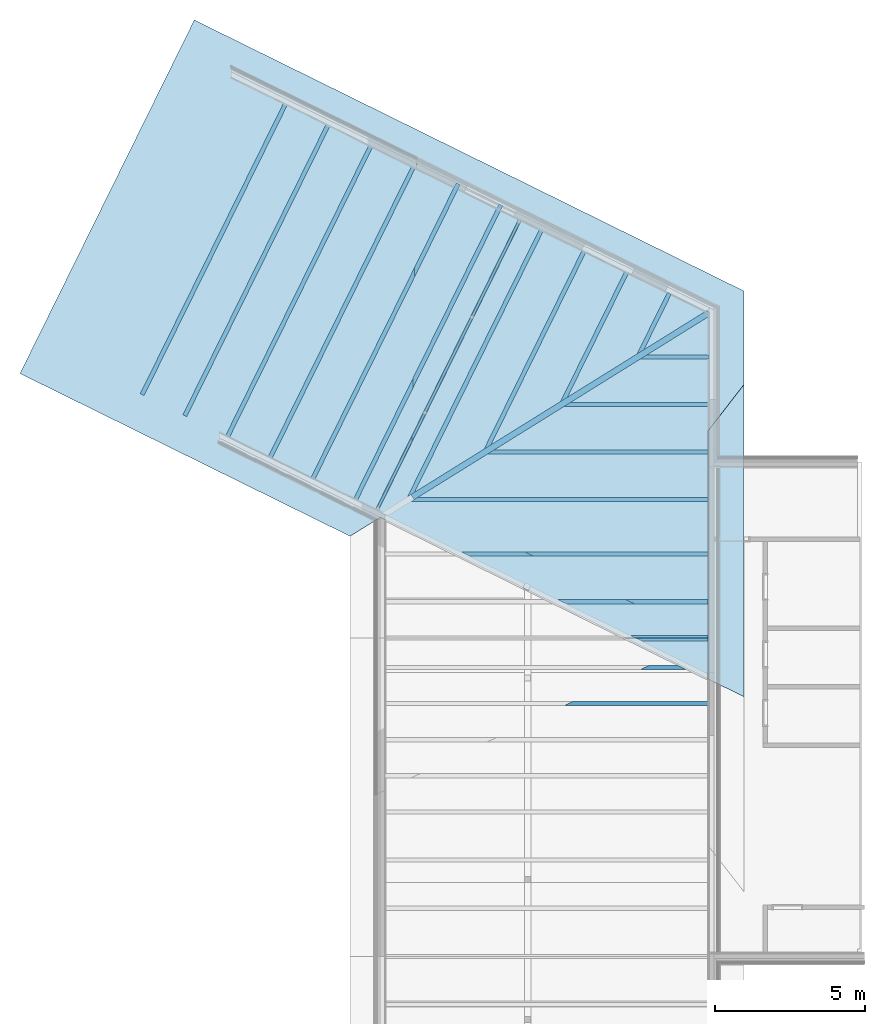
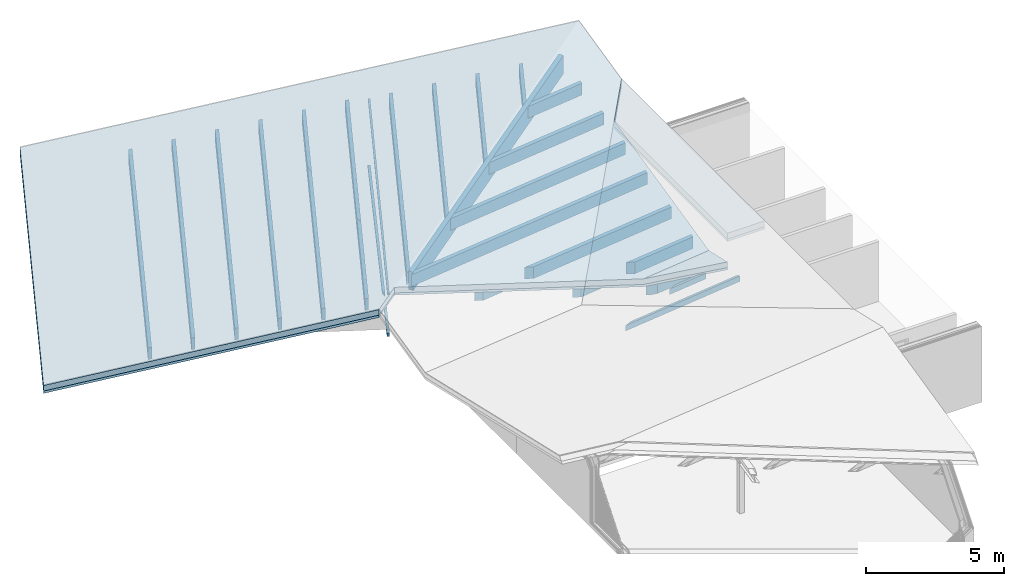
# One storey, part 13 of 14: 32 roofs, 1 element without a shape of its own.
"""IFC4 building model written with IfcOpenShell, lengths in metres."""

import ifcopenshell
import ifcopenshell.guid

model = None  # the IFC model being written
_history = None  # IfcOwnerHistory: only IFC2X3 demands one
_inside = {}  # id of a spatial element -> (the spatial element, [elements in it])
_under = {}  # id of a project, library or spatial element -> (it, [spatial elements below it])
_declared = {}  # id of a project -> (the project, [libraries it declares])
_typed = {}  # id of a type object -> (the type object, [elements of that type])
_made_of = {}  # id of a material, layer set ... -> (it, [elements and type objects made of it])


def new_model(schema):
    """Start an empty IFC model of exactly this schema.

    Asked for "IFC4X3", IfcOpenShell would pick the latest addendum, in which some entities
    have other attributes; the version numbers below select the first issue.
    IFC2X3 requires an IfcOwnerHistory on every rooted entity: one is made here for all.
    """
    global model, _history
    if schema == "IFC4X3":
        model = ifcopenshell.file(schema_version=(4, 3, 0, 0))
    else:
        model = ifcopenshell.file(schema=schema)
    _inside.clear()
    _under.clear()
    _declared.clear()
    _typed.clear()
    _made_of.clear()
    _history = None
    if model.schema == "IFC2X3":
        org = make("IfcOrganization", Name="unknown")
        user = make(
            "IfcPersonAndOrganization",
            ThePerson=make("IfcPerson", FamilyName="unknown"),
            TheOrganization=org,
        )
        app = make(
            "IfcApplication",
            ApplicationDeveloper=org,
            Version="unknown",
            ApplicationFullName="unknown",
            ApplicationIdentifier="unknown",
        )
        _history = make(
            "IfcOwnerHistory",
            OwningUser=user,
            OwningApplication=app,
            ChangeAction="ADDED",
            CreationDate=0,
        )
    return model


def make(cls, **values):
    """One entity of the class cls with the attributes given. An attribute that is None is left unset."""
    return model.create_entity(
        cls, **{name: value for name, value in values.items() if value is not None}
    )


def entity(cls, *values):
    """Any entity or typed value of the class cls, its attributes in the order of the schema. None: left unset."""
    e = model.create_entity(cls)
    for i, value in enumerate(values):
        if value is not None:
            e[i] = value
    return e


def rooted(cls, **values):
    """An entity with a GlobalId (a new one), such as an element, a storey or a relation."""
    return make(cls, GlobalId=ifcopenshell.guid.new(), OwnerHistory=_history, **values)


def si_unit(unit_type, name, prefix=None):
    """IfcSIUnit, for example si_unit("LENGTHUNIT", "METRE", prefix="MILLI")."""
    return make("IfcSIUnit", UnitType=unit_type, Prefix=prefix, Name=name)


def converted_unit(unit_type, name, factor, base, dimensions=None, offset=None):
    """IfcConversionBasedUnit, such as the inch: factor (a typed value) times the base unit."""
    return make(
        "IfcConversionBasedUnit"
        if offset is None
        else "IfcConversionBasedUnitWithOffset",
        ConversionOffset=offset,
        Dimensions=None
        if dimensions is None
        else entity("IfcDimensionalExponents", *dimensions),
        UnitType=unit_type,
        Name=name,
        ConversionFactor=make(
            "IfcMeasureWithUnit", ValueComponent=factor, UnitComponent=base
        ),
    )


def derived_unit(unit_type, elements):
    """IfcDerivedUnit: a product of units, each with its exponent."""
    return make(
        "IfcDerivedUnit",
        Elements=[
            make("IfcDerivedUnitElement", Unit=unit, Exponent=power)
            for unit, power in elements
        ],
        UnitType=unit_type,
    )


def assignment(units):
    """IfcUnitAssignment: the units of a project."""
    return None if units is None else make("IfcUnitAssignment", Units=units)


def point(xyz):
    """IfcCartesianPoint."""
    return None if xyz is None else make("IfcCartesianPoint", Coordinates=xyz)


def direction(xyz):
    """IfcDirection."""
    return None if xyz is None else make("IfcDirection", DirectionRatios=xyz)


def frame(location, z_axis=None, x_axis=None):
    """IfcAxis2Placement3D, a coordinate frame: its origin and axes. An axis left out is left unset."""
    return make(
        "IfcAxis2Placement3D",
        Location=point(location),
        Axis=direction(z_axis),
        RefDirection=direction(x_axis),
    )


def origin():
    """The frame at (0, 0, 0) with its axes left unset."""
    return frame((0.0, 0.0, 0.0))


def place(relative_to, where):
    """IfcLocalPlacement: puts the frame where relative to a parent placement (None: the world)."""
    return make(
        "IfcLocalPlacement", PlacementRelTo=relative_to, RelativePlacement=where
    )


def context(
    kind, dimensions, precision=None, world=None, true_north=None, identifier=None
):
    """IfcGeometricRepresentationContext, for example the 3D "Model" context."""
    return make(
        "IfcGeometricRepresentationContext",
        ContextIdentifier=identifier,
        ContextType=kind,
        CoordinateSpaceDimension=dimensions,
        Precision=precision,
        WorldCoordinateSystem=world,
        TrueNorth=true_north,
    )


def subcontext(parent, identifier, kind, view, scale=None):
    """IfcGeometricRepresentationSubContext, for example "Body" below "Model"."""
    return make(
        "IfcGeometricRepresentationSubContext",
        ContextIdentifier=identifier,
        ContextType=kind,
        ParentContext=parent,
        TargetScale=scale,
        TargetView=view,
    )


def project(units=None, contexts=None):
    """IfcProject with its units and contexts."""
    return rooted(
        "IfcProject",
        Name="project",
        RepresentationContexts=contexts,
        UnitsInContext=assignment(units),
    )


def spatial(cls, under=None, at=None, **own):
    """A site, building, storey or space (cls), placed at a placement, below another one or the project."""
    s = rooted(cls, ObjectPlacement=at, **own)
    if under is not None:
        _under.setdefault(under.id(), (under, []))[1].append(s)
    return s


def faces_of(points, faces, orient=None, outer=None):
    """IfcFace entities. A face is a list of loops; a loop is a list of indices into points, from 0.

    orient and outer hold one flag for each loop. By default every Orientation is true, the
    first loop of a face is its IfcFaceOuterBound and the others are IfcFaceBound.
    """
    made = []
    for i, loops in enumerate(faces):
        bounds = []
        for j, loop in enumerate(loops):
            is_outer = j == 0 if outer is None else outer[i][j]
            bounds.append(
                make(
                    "IfcFaceOuterBound" if is_outer else "IfcFaceBound",
                    Bound=make("IfcPolyLoop", Polygon=[points[k] for k in loop]),
                    Orientation=True if orient is None else orient[i][j],
                )
            )
        made.append(make("IfcFace", Bounds=bounds))
    return made


def faceted_brep(points, faces, orient=None, outer=None, voids=None):
    """IfcFacetedBrep: a solid bounded by flat faces; with voids (closed shells), ...WithVoids."""
    shared = [point(p) for p in points]
    hull = make("IfcClosedShell", CfsFaces=faces_of(shared, faces, orient, outer))
    if voids is None:
        return make("IfcFacetedBrep", Outer=hull)
    return make(
        "IfcFacetedBrepWithVoids",
        Outer=hull,
        Voids=[
            make(cls, CfsFaces=faces_of(shared, fs, o, b)) for cls, fs, o, b in voids
        ],
    )


def shape(context_of_items, identifier, shape_type, items):
    """IfcShapeRepresentation: the items that make up one representation, for example the "Body"."""
    return make(
        "IfcShapeRepresentation",
        ContextOfItems=context_of_items,
        RepresentationIdentifier=identifier,
        RepresentationType=shape_type,
        Items=items,
    )


def material(Name=None, Category=None):
    """IfcMaterial."""
    return make("IfcMaterial", Name=Name, Category=Category)


def made_of(thing, what):
    """Note that an element or type object is made of a material, layer set ...; save() writes the relation."""
    if what is not None:
        _made_of.setdefault(what.id(), (what, []))[1].append(thing)
    return thing


def element(
    cls,
    number,
    at=None,
    inside=None,
    cuts=None,
    type_object=None,
    material=None,
    context=None,
    identifier="Body",
    shape_type=None,
    held_by="IfcProductDefinitionShape",
    body=None,
    shapes=None,
    **own,
):
    """One element of the class cls, such as IfcWall. Its Tag is "e" and its number.

    at: its placement. inside: the storey or other place that contains it. cuts: it is an
    opening in that element (IfcRelVoidsElement). A single representation is given by context,
    identifier, shape_type and body (its items); several are given by shapes. held_by: the class
    of the entity that holds the representations. save() writes the other relations.
    """
    e = rooted(cls, Tag="e%d" % number, ObjectPlacement=at, **own)
    if body is not None:
        shapes = [shape(context, identifier, shape_type, body)]
    if shapes is not None:
        e.Representation = make(held_by, Representations=shapes)
    if inside is not None:
        _inside.setdefault(inside.id(), (inside, []))[1].append(e)
    if cuts is not None:
        rooted(
            "IfcRelVoidsElement", RelatingBuildingElement=cuts, RelatedOpeningElement=e
        )
    if type_object is not None:
        _typed.setdefault(type_object.id(), (type_object, []))[1].append(e)
    return made_of(e, material)


def aggregate(whole, parts):
    """IfcRelAggregates: a whole, such as a stair, and the parts it consists of."""
    return rooted("IfcRelAggregates", RelatingObject=whole, RelatedObjects=parts)


def save(model, path):
    """Write the relations noted so far, then the file.

    IfcRelAggregates (storeys below a building ...), IfcRelContainedInSpatialStructure (elements
    in a storey), IfcRelDefinesByType, IfcRelAssociatesMaterial and IfcRelDeclares: one each for
    every whole, place, type object, material and project.
    """
    for whole, parts in _under.values():
        aggregate(whole, parts)
    for where, things in _inside.values():
        rooted(
            "IfcRelContainedInSpatialStructure",
            RelatedElements=things,
            RelatingStructure=where,
        )
    for kind, things in _typed.values():
        rooted("IfcRelDefinesByType", RelatedObjects=things, RelatingType=kind)
    for what, things in _made_of.values():
        rooted("IfcRelAssociatesMaterial", RelatedObjects=things, RelatingMaterial=what)
    for by, libraries in _declared.values():
        rooted("IfcRelDeclares", RelatingContext=by, RelatedDefinitions=libraries)
    model.write(path)


model = new_model("IFC4")

# Units and contexts
model_context = context("Model", 3, precision=1e-05, world=origin())
body_context = subcontext(model_context, "Body", "Model", "MODEL_VIEW")
ifc_project = project(units=[si_unit("LENGTHUNIT", "METRE"), si_unit("AREAUNIT", "SQUARE_METRE"), si_unit("VOLUMEUNIT", "CUBIC_METRE"), si_unit("MASSUNIT", "GRAM", prefix="KILO"), converted_unit("PLANEANGLEUNIT", "DEGREE", entity("IfcPlaneAngleMeasure", 0.0174532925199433), si_unit("PLANEANGLEUNIT", "RADIAN"), dimensions=[0, 0, 0, 0, 0, 0, 0]), derived_unit("THERMALTRANSMITTANCEUNIT", [(si_unit("POWERUNIT", "WATT"), 1), (si_unit("THERMODYNAMICTEMPERATUREUNIT", "KELVIN"), -1), (si_unit("LENGTHUNIT", "METRE"), -2)]), derived_unit("VOLUMETRICFLOWRATEUNIT", [(si_unit("LENGTHUNIT", "METRE"), 3), (converted_unit("TIMEUNIT", "hour", entity("IfcTimeMeasure", 3600.0), si_unit("TIMEUNIT", "SECOND"), dimensions=[0, 0, 1, 0, 0, 0, 0]), -1), (si_unit("LENGTHUNIT", "METRE"), -1)])], contexts=[model_context])

# Site, building, storey
site_placement = place(None, origin())
site = spatial("IfcSite", under=ifc_project, at=site_placement, Name="Psychiatrie Neubau Wunstorf", CompositionType="ELEMENT")
building_placement = place(site_placement, origin())
building = spatial("IfcBuilding", under=site, at=building_placement, Name="Neubau H1 Sozialzentrum", CompositionType="ELEMENT")
storey_placement = place(building_placement, frame((0.0, 0.0, 4.45)))
storey = spatial("IfcBuildingStorey", under=building, at=storey_placement, Name="H1 Ebene +1", CompositionType="ELEMENT", Elevation=4.45)

# Assembly, roofs
assembly_placement = place(storey_placement, frame((0.0, 0.0, -4.45)))
assembly = element("IfcElementAssembly", 1, at=assembly_placement, inside=storey, Name="Fachwerkträger", PredefinedType="NOTDEFINED")
ifc_material_1 = material(Name="Schwerlast-Deckenprofil")
roof_1_placement = place(assembly_placement, frame((-15.0033747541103, 28.9337753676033, 3.7)))
roof_1 = element("IfcRoof", 2, at=roof_1_placement, material=ifc_material_1, PredefinedType="NOTDEFINED", context=body_context, shape_type="Brep", body=[
    faceted_brep([(0.00388379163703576, 0.234007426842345, 0.0), (3.53345114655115, 7.39258999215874, 0.0), (3.53345114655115, 7.39258999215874, 0.15), (0.00388379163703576, 0.234007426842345, 0.15), (3.62314167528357, 7.3483677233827, 0.0), (3.62314167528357, 7.3483677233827, 0.15), (0.0, 0.0, 0.0), (0.0, 0.0, 0.15)], [[[0, 1, 2, 3]], [[1, 4, 5, 2]], [[4, 6, 7, 5]], [[6, 0, 3, 7]], [[7, 3, 2, 5]], [[0, 6, 4, 1]]], orient=[[False], [False], [False], [False], [False], [False]]),
])
ifc_material_2 = material(Name="Schwerlast-Deckenprofil")
roof_2_placement = place(assembly_placement, frame((-16.1981029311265, 26.6925649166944, 3.7)))
roof_2 = element("IfcRoof", 3, at=roof_2_placement, material=ifc_material_2, PredefinedType="NOTDEFINED", context=body_context, shape_type="Brep", body=[
    faceted_brep([(0.0, 0.0442222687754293, 0.0), (1.19861196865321, 2.47521787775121, 0.0), (1.19861196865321, 2.47521787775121, 0.15), (0.0, 0.0442222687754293, 0.15), (1.19472817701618, 2.24121045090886, 0.0), (1.19472817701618, 2.24121045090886, 0.15), (0.0896905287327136, 0.0, 0.0), (0.0896905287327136, 0.0, 0.15)], [[[0, 1, 2, 3]], [[1, 4, 5, 2]], [[4, 6, 7, 5]], [[6, 0, 3, 7]], [[7, 3, 2, 5]], [[0, 6, 4, 1]]], orient=[[False], [False], [False], [False], [False], [False]]),
])
ifc_material_3 = material(Name="Schwerlast-Deckenprofil")
roof_3_placement = place(assembly_placement, frame((-16.1891338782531, 26.6969871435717, 5.54337227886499)))
roof_3 = element("IfcRoof", 4, at=roof_3_placement, material=ifc_material_3, PredefinedType="NOTDEFINED", context=body_context, shape_type="Brep", body=[
    faceted_brep([(0.0, 0.0353778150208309, 0.0), (1.18925453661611, 2.44739490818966, 0.292417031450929), (1.18925453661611, 2.44739490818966, 0.374965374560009), (0.0, 0.0353778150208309, 0.0825483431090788), (1.18614750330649, 2.26018896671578, 0.292410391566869), (1.18614750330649, 2.26018896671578, 0.374958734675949), (0.07175242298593, 0.0, 0.0183999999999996), (0.07175242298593, 0.0, 0.100948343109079)], [[[0, 1, 2, 3]], [[1, 4, 5, 2]], [[4, 6, 7, 5]], [[6, 0, 3, 7]], [[7, 3, 2, 5]], [[0, 6, 4, 1]]], orient=[[False], [False], [False], [False], [False], [False]]),
])
ifc_material_4 = material(Name="Schwerlast-Deckenprofil")
roof_4_placement = place(assembly_placement, frame((-15.0029863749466, 28.9571761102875, 5.83578267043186)))
roof_4 = element("IfcRoof", 5, at=roof_4_placement, material=ifc_material_4, PredefinedType="NOTDEFINED", context=body_context, shape_type="Brep", body=[
    faceted_brep([(0.0031070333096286, 0.18720594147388, 6.63988405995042e-06), (3.54203182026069, 7.36476702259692, 0.870166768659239), (3.54203182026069, 7.36476702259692, 0.952715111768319), (0.0031070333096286, 0.18720594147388, 0.0825549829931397), (3.61378424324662, 7.32938920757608, 0.888566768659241), (3.61378424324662, 7.32938920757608, 0.971115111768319), (0.0, 0.0, 0.0), (0.0, 0.0, 0.0825483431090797)], [[[0, 1, 2, 3]], [[1, 4, 5, 2]], [[4, 6, 7, 5]], [[6, 0, 3, 7]], [[7, 3, 2, 5]], [[0, 6, 4, 1]]], orient=[[False], [False], [False], [False], [False], [False]]),
])
aggregate(assembly, [roof_1, roof_2, roof_3, roof_4])

# Roofs
ifc_material_5 = material(Name="Schwerlast-Deckenprofil")
roof_5_placement = place(storey_placement, frame((-15.0320578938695, 27.0357132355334, 0.648268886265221)))
element("IfcRoof", 6, at=roof_5_placement, inside=storey, material=ifc_material_5, PredefinedType="NOTDEFINED", context=body_context, shape_type="Brep", body=[
    faceted_brep([(0.0, 0.169836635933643, 0.0), (9.84458421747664, 6.29208371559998, 2.47856907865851), (9.84458421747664, 6.29208371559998, 3.29856907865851), (0.0, 0.169836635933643, 0.82), (9.89949113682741, 6.20379329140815, 3.31290707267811), (0.055651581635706, 0.0803487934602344, 0.834532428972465), (0.055651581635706, 0.0803487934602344, 0.0145324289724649), (9.89949113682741, 6.20379329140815, 2.49290707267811), (9.9502038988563, 6.12224707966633, 2.47966369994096), (9.9502038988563, 6.12224707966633, 3.29966369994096), (0.10561968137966, 0.0, 0.00148352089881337), (0.10561968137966, 0.0, 0.821483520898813)], [[[0, 1, 2, 3]], [[3, 2, 4, 5]], [[1, 0, 6, 7]], [[8, 9, 4, 2, 1, 7]], [[8, 10, 11, 9]], [[10, 6, 0, 3, 5, 11]], [[11, 5, 4, 9]], [[6, 10, 8, 7]]], orient=[[False], [False], [False], [False], [False], [False], [False], [False]]),
])
ifc_material_6 = material(Name="Schwerlast-Deckenprofil")
roof_6_placement = place(storey_placement, frame((-15.1422611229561, 27.137015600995, 0.920523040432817)))
element("IfcRoof", 7, at=roof_6_placement, inside=storey, material=ifc_material_6, PredefinedType="NOTDEFINED", context=body_context, shape_type="Brep", body=[
    faceted_brep([(4.50444136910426, 8.81921575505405, 1.10888920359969), (0.225119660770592, 0.139999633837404, 0.0566783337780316), (0.225119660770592, 0.139999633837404, 0.576678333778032), (4.50444136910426, 8.81921575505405, 1.62888920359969), (0.0, 0.0, 0.0), (0.0, 0.0, 0.52), (4.37887462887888, 8.8811269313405, 1.07668920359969), (4.37887462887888, 8.8811269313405, 1.59668920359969)], [[[0, 1, 2, 3]], [[1, 4, 5, 2]], [[4, 6, 7, 5]], [[6, 0, 3, 7]], [[7, 3, 2, 5]], [[0, 6, 4, 1]]], orient=[[False], [False], [False], [False], [False], [False]]),
])
ifc_material_7 = material(Name="Schwerlast-Deckenprofil")
roof_7_placement = place(storey_placement, frame((-19.7747369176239, 28.3982114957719, -0.263393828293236)))
element("IfcRoof", 8, at=roof_7_placement, inside=storey, material=ifc_material_7, PredefinedType="NOTDEFINED", context=body_context, shape_type="Brep", body=[
    faceted_brep([(4.95634175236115, 9.79766028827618, 1.22000365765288), (0.125566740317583, 0.0, 0.0322000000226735), (0.125566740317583, 0.0, 0.552200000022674), (4.95634175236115, 9.79766028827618, 1.74000365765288), (0.0, 0.0619111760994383, 0.0), (0.0, 0.0619111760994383, 0.520000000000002), (4.83077501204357, 9.85957146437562, 1.18780365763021), (4.83077501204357, 9.85957146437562, 1.70780365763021)], [[[0, 1, 2, 3]], [[1, 4, 5, 2]], [[4, 6, 7, 5]], [[6, 0, 3, 7]], [[7, 3, 2, 5]], [[0, 6, 4, 1]]], orient=[[False], [False], [False], [False], [False], [False]]),
])
ifc_material_8 = material(Name="Schwerlast-Deckenprofil")
roof_8_placement = place(storey_placement, frame((-21.1918472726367, 29.0969233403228, -0.626793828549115)))
element("IfcRoof", 9, at=roof_8_placement, inside=storey, material=ifc_material_8, PredefinedType="NOTDEFINED", context=body_context, shape_type="Brep", body=[
    faceted_brep([(4.95634175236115, 9.79766028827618, 1.22000365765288), (0.125566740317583, 0.0, 0.0322000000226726), (0.125566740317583, 0.0, 0.552200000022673), (4.95634175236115, 9.79766028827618, 1.74000365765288), (0.0, 0.0619111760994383, 0.0), (0.0, 0.0619111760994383, 0.520000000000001), (4.83077501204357, 9.85957146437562, 1.18780365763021), (4.83077501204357, 9.85957146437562, 1.70780365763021)], [[[0, 1, 2, 3]], [[1, 4, 5, 2]], [[4, 6, 7, 5]], [[6, 0, 3, 7]], [[7, 3, 2, 5]], [[0, 6, 4, 1]]], orient=[[False], [False], [False], [False], [False], [False]]),
])
ifc_material_9 = material(Name="Schwerlast-Deckenprofil")
roof_9_placement = place(storey_placement, frame((-22.6089576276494, 29.7956351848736, -0.990193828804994)))
element("IfcRoof", 10, at=roof_9_placement, inside=storey, material=ifc_material_9, PredefinedType="NOTDEFINED", context=body_context, shape_type="Brep", body=[
    faceted_brep([(4.95634175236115, 9.79766028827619, 1.22000365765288), (0.125566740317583, 0.0, 0.0322000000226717), (0.125566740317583, 0.0, 0.552200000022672), (4.95634175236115, 9.79766028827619, 1.74000365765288), (0.0, 0.0619111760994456, 0.0), (0.0, 0.0619111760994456, 0.52), (4.83077501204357, 9.85957146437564, 1.18780365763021), (4.83077501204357, 9.85957146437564, 1.70780365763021)], [[[0, 1, 2, 3]], [[1, 4, 5, 2]], [[4, 6, 7, 5]], [[6, 0, 3, 7]], [[7, 3, 2, 5]], [[0, 6, 4, 1]]], orient=[[False], [False], [False], [False], [False], [False]]),
])
ifc_material_10 = material(Name="Schwerlast-Deckenprofil")
roof_10_placement = place(storey_placement, frame((-24.0260679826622, 30.4943470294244, -1.35359382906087)))
element("IfcRoof", 11, at=roof_10_placement, inside=storey, material=ifc_material_10, PredefinedType="NOTDEFINED", context=body_context, shape_type="Brep", body=[
    faceted_brep([(4.95634175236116, 9.79766028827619, 1.22000365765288), (0.125566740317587, 0.0, 0.0322000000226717), (0.125566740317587, 0.0, 0.552200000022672), (4.95634175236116, 9.79766028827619, 1.74000365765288), (0.0, 0.0619111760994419, 0.0), (0.0, 0.0619111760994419, 0.52), (4.83077501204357, 9.85957146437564, 1.18780365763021), (4.83077501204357, 9.85957146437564, 1.70780365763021)], [[[0, 1, 2, 3]], [[1, 4, 5, 2]], [[4, 6, 7, 5]], [[6, 0, 3, 7]], [[7, 3, 2, 5]], [[0, 6, 4, 1]]], orient=[[False], [False], [False], [False], [False], [False]]),
])
ifc_material_11 = material(Name="Schwerlast-Deckenprofil")
roof_11_placement = place(storey_placement, frame((-16.9405162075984, 27.0007878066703, 0.463406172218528)))
element("IfcRoof", 12, at=roof_11_placement, inside=storey, material=ifc_material_11, PredefinedType="NOTDEFINED", context=body_context, shape_type="Brep", body=[
    faceted_brep([(1.96704664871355, 3.73484472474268, 0.484987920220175), (0.125566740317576, 0.0, 0.0322000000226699), (0.125566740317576, 0.0, 0.55220000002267), (1.96704664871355, 3.73484472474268, 1.00498792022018), (0.0, 0.0619111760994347, 0.0), (0.0, 0.0619111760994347, 0.52), (1.97248395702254, 4.06245512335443, 0.484999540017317), (1.97248395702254, 4.06245512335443, 1.00499954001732)], [[[0, 1, 2, 3]], [[1, 4, 5, 2]], [[4, 6, 7, 5]], [[6, 0, 3, 7]], [[7, 3, 2, 5]], [[0, 6, 4, 1]]], orient=[[False], [False], [False], [False], [False], [False]]),
])
ifc_material_12 = material(Name="Schwerlast-Deckenprofil")
roof_12_placement = place(storey_placement, frame((-18.3576265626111, 27.6994996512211, 0.100006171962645)))
element("IfcRoof", 13, at=roof_12_placement, inside=storey, material=ifc_material_12, PredefinedType="NOTDEFINED", context=body_context, shape_type="Brep", body=[
    faceted_brep([(3.44552091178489, 6.73345023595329, 0.848519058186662), (0.12556674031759, 0.0, 0.0322000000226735), (0.12556674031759, 0.0, 0.552200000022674), (3.44552091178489, 6.73345023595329, 1.36851905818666), (0.0, 0.0619111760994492, 0.0), (0.0, 0.0619111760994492, 0.520000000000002), (3.45095822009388, 7.06106063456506, 0.848530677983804), (3.45095822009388, 7.06106063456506, 1.3685306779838)], [[[0, 1, 2, 3]], [[1, 4, 5, 2]], [[4, 6, 7, 5]], [[6, 0, 3, 7]], [[7, 3, 2, 5]], [[0, 6, 4, 1]]], orient=[[False], [False], [False], [False], [False], [False]]),
])
ifc_material_13 = material(Name="Schwerlast-Deckenprofil")
roof_13_placement = place(storey_placement, frame((-12.4960052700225, 28.5471628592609, 1.56156603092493)))
element("IfcRoof", 14, at=roof_13_placement, inside=storey, material=ifc_material_13, PredefinedType="NOTDEFINED", context=body_context, shape_type="Brep", body=[
    faceted_brep([(0.225119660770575, 0.140011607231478, 0.0566694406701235), (7.36133403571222, 0.139999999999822, 0.832342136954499), (7.36133403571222, 0.139999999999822, 1.3523421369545), (0.225119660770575, 0.140011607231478, 0.576669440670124), (7.36133380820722, 0.0, 0.800142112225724), (7.36133380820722, 0.0, 1.32014211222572), (0.0, 1.19733940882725e-05, 0.0), (0.0, 1.19733940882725e-05, 0.52)], [[[0, 1, 2, 3]], [[1, 4, 5, 2]], [[4, 6, 7, 5]], [[6, 0, 3, 7]], [[7, 3, 2, 5]], [[0, 6, 4, 1]]], orient=[[False], [False], [False], [False], [False], [False]]),
])
ifc_material_14 = material(Name="Schwerlast-Deckenprofil")
roof_14_placement = place(storey_placement, frame((-9.95536909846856, 30.1271628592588, 2.20112114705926)))
element("IfcRoof", 15, at=roof_14_placement, inside=storey, material=ifc_material_14, PredefinedType="NOTDEFINED", context=body_context, shape_type="Brep", body=[
    faceted_brep([(0.225119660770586, 0.140007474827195, 0.0566694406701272), (4.82070043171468, 0.139999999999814, 0.556187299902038), (4.82070043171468, 0.139999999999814, 1.07618729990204), (0.225119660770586, 0.140007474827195, 0.576669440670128), (4.82070020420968, 0.0, 0.523987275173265), (4.82070020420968, 0.0, 1.04398727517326), (0.0, 7.84098979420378e-06, 0.0), (0.0, 7.84098979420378e-06, 0.520000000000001)], [[[0, 1, 2, 3]], [[1, 4, 5, 2]], [[4, 6, 7, 5]], [[6, 0, 3, 7]], [[7, 3, 2, 5]], [[0, 6, 4, 1]]], orient=[[False], [False], [False], [False], [False], [False]]),
])
ifc_material_15 = material(Name="Schwerlast-Deckenprofil")
roof_15_placement = place(storey_placement, frame((-7.41473292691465, 31.7071628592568, 2.84067626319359)))
element("IfcRoof", 16, at=roof_15_placement, inside=storey, material=ifc_material_15, PredefinedType="NOTDEFINED", context=body_context, shape_type="Brep", body=[
    faceted_brep([(0.225119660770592, 0.140003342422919, 0.056669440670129), (2.28006682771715, 0.139999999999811, 0.280032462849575), (2.28006682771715, 0.139999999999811, 0.800032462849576), (0.225119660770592, 0.140003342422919, 0.576669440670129), (2.28006660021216, 0.0, 0.247832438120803), (2.28006660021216, 0.0, 0.767832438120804), (0.0, 3.70858550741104e-06, 0.0), (0.0, 3.70858550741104e-06, 0.52)], [[[0, 1, 2, 3]], [[1, 4, 5, 2]], [[4, 6, 7, 5]], [[6, 0, 3, 7]], [[7, 3, 2, 5]], [[0, 6, 4, 1]]], orient=[[False], [False], [False], [False], [False], [False]]),
])
ifc_material_16 = material(Name="Schwerlast-Deckenprofil")
roof_16_placement = place(storey_placement, frame((-12.6016249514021, 28.7170114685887, 1.56017852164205)))
element("IfcRoof", 17, at=roof_16_placement, inside=storey, material=ifc_material_16, PredefinedType="NOTDEFINED", context=body_context, shape_type="Brep", body=[
    faceted_brep([(3.3809155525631, 6.54050804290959, 0.832633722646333), (0.225119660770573, 0.139999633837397, 0.0566783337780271), (0.225119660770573, 0.139999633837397, 0.576678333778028), (3.3809155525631, 6.54050804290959, 1.35263372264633), (0.0, 0.0, 0.0), (0.0, 0.0, 0.520000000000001), (3.25534881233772, 6.60241921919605, 0.800433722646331), (3.25534881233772, 6.60241921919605, 1.32043372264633)], [[[0, 1, 2, 3]], [[1, 4, 5, 2]], [[4, 6, 7, 5]], [[6, 0, 3, 7]], [[7, 3, 2, 5]], [[0, 6, 4, 1]]], orient=[[False], [False], [False], [False], [False], [False]]),
])
ifc_material_17 = material(Name="Schwerlast-Deckenprofil")
roof_17_placement = place(storey_placement, frame((-10.0609887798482, 30.2970073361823, 2.19983400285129)))
element("IfcRoof", 18, at=roof_17_placement, inside=storey, material=ifc_material_17, PredefinedType="NOTDEFINED", context=body_context, shape_type="Brep", body=[
    faceted_brep([(2.25738973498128, 4.26180032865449, 0.556378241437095), (0.225119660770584, 0.139999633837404, 0.0566783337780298), (0.225119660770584, 0.139999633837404, 0.576678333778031), (2.25738973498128, 4.26180032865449, 1.07637824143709), (0.0, 0.0, 0.0), (0.0, 0.0, 0.520000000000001), (2.13182299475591, 4.32371150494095, 0.524178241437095), (2.13182299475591, 4.32371150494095, 1.0441782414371)], [[[0, 1, 2, 3]], [[1, 4, 5, 2]], [[4, 6, 7, 5]], [[6, 0, 3, 7]], [[7, 3, 2, 5]], [[0, 6, 4, 1]]], orient=[[False], [False], [False], [False], [False], [False]]),
])
ifc_material_18 = material(Name="Schwerlast-Deckenprofil")
roof_18_placement = place(storey_placement, frame((-7.52035260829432, 31.8770032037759, 2.83948948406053)))
element("IfcRoof", 19, at=roof_18_placement, inside=storey, material=ifc_material_18, PredefinedType="NOTDEFINED", context=body_context, shape_type="Brep", body=[
    faceted_brep([(1.13386391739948, 1.9830926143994, 0.28012276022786), (0.225119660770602, 0.139999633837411, 0.0566783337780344), (0.225119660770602, 0.139999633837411, 0.576678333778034), (1.13386391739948, 1.9830926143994, 0.800122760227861), (0.0, 0.0, 0.0), (0.0, 0.0, 0.52), (1.0082971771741, 2.04500379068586, 0.247922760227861), (1.0082971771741, 2.04500379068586, 0.76792276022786)], [[[0, 1, 2, 3]], [[1, 4, 5, 2]], [[4, 6, 7, 5]], [[6, 0, 3, 7]], [[7, 3, 2, 5]], [[0, 6, 4, 1]]], orient=[[False], [False], [False], [False], [False], [False]]),
])
ifc_material_19 = material(Name="Schwerlast-Deckenprofil")
roof_19_placement = place(storey_placement, frame((-14.9734695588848, 30.735632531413, 0.948394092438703)))
element("IfcRoof", 20, at=roof_19_placement, inside=storey, material=ifc_material_19, PredefinedType="NOTDEFINED", context=body_context, shape_type="Brep", body=[
    faceted_brep([(2.98929510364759, 6.06281556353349, 0.735015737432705), (0.0, 0.0, 0.0), (0.0, 0.0, 0.520000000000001), (2.98929510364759, 6.06281556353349, 1.2550157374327), (0.00543730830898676, 0.327610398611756, 1.16197971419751e-05), (0.00543730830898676, 0.327610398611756, 0.520011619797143), (2.86372836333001, 6.12472673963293, 0.702815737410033), (2.86372836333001, 6.12472673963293, 1.22281573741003)], [[[0, 1, 2, 3]], [[1, 4, 5, 2]], [[4, 6, 7, 5]], [[6, 0, 3, 7]], [[7, 3, 2, 5]], [[0, 6, 4, 1]]], orient=[[False], [False], [False], [False], [False], [False]]),
])
ifc_material_20 = material(Name="Schwerlast-Deckenprofil")
roof_20_placement = place(storey_placement, frame((-14.9121056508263, 34.4329498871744, 0.948525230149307)))
element("IfcRoof", 21, at=roof_20_placement, inside=storey, material=ifc_material_20, PredefinedType="NOTDEFINED", context=body_context, shape_type="Brep", body=[
    faceted_brep([(1.51082084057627, 3.06421005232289, 0.37148459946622), (0.0, 0.0, 0.0), (0.0, 0.0, 0.519999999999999), (1.51082084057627, 3.06421005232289, 0.891484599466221), (0.00543730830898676, 0.32761039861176, 1.16197971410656e-05), (0.00543730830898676, 0.32761039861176, 0.52001161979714), (1.38525410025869, 3.12612122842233, 0.339284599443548), (1.38525410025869, 3.12612122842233, 0.859284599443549)], [[[0, 1, 2, 3]], [[1, 4, 5, 2]], [[4, 6, 7, 5]], [[6, 0, 3, 7]], [[7, 3, 2, 5]], [[0, 6, 4, 1]]], orient=[[False], [False], [False], [False], [False], [False]]),
])
ifc_material_21 = material(Name="Schwerlast-Deckenprofil")
roof_21_placement = place(storey_placement, frame((-7.41504102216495, 21.3903211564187, 1.28248294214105)))
element("IfcRoof", 22, at=roof_21_placement, inside=storey, material=ifc_material_21, PredefinedType="NOTDEFINED", context=body_context, shape_type="Brep", body=[
    faceted_brep([(1.52684160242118, 0.0, 0.165961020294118), (0.0, 0.0, 0.0), (0.0, 0.0, 0.247644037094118), (1.52684160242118, 0.0, 0.413605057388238), (0.296240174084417, 0.14, 1.43729348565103e-08), (0.296240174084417, 0.14, 0.247644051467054), (1.2428970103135, 0.14, 0.102897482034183), (1.2428970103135, 0.14, 0.350541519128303)], [[[0, 1, 2, 3]], [[1, 4, 5, 2]], [[4, 6, 7, 5]], [[6, 0, 3, 7]], [[7, 3, 2, 5]], [[0, 6, 4, 1]]], orient=[[False], [False], [False], [False], [False], [False]]),
])
ifc_material_22 = material(Name="Schwerlast-Deckenprofil")
roof_22_placement = place(storey_placement, frame((-10.1552267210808, 23.5771847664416, 0.703764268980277)))
element("IfcRoof", 23, at=roof_22_placement, inside=storey, material=ifc_material_22, PredefinedType="NOTDEFINED", context=body_context, shape_type="Brep", body=[
    faceted_brep([(0.0, 0.14, 0.00133646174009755), (2.25076518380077, 0.14, 0.24598481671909), (2.25076518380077, 0.14, 0.76598481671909), (0.0, 0.14, 0.521336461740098), (2.54700393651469, 0.0, 0.24598467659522), (2.54700393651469, 0.0, 0.76598467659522), (0.283944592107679, 0.0, 0.0), (0.283944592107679, 0.0, 0.52)], [[[0, 1, 2, 3]], [[1, 4, 5, 2]], [[4, 6, 7, 5]], [[6, 0, 3, 7]], [[7, 3, 2, 5]], [[0, 6, 4, 1]]], orient=[[False], [False], [False], [False], [False], [False]]),
])
ifc_material_23 = material(Name="Schwerlast-Deckenprofil")
roof_23_placement = place(storey_placement, frame((-13.3597796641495, 25.1572022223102, 0.718847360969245)))
element("IfcRoof", 24, at=roof_23_placement, inside=storey, material=ifc_material_23, PredefinedType="NOTDEFINED", context=body_context, shape_type="Brep", body=[
    faceted_brep([(2.40825401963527, 0.0, 0.230903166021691), (0.283944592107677, 0.0, 0.0), (0.283944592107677, 0.0, 0.52), (2.40825401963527, 0.0, 0.750903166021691), (0.0, 0.14, 0.00133646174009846), (0.0, 0.14, 0.521336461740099), (2.11201526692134, 0.14, 0.230903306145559), (2.11201526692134, 0.14, 0.75090330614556)], [[[0, 1, 2, 3]], [[1, 4, 5, 2]], [[4, 6, 7, 5]], [[6, 0, 3, 7]], [[7, 3, 2, 5]], [[0, 6, 4, 1]]], orient=[[False], [False], [False], [False], [False], [False]]),
])
ifc_material_24 = material(Name="Schwerlast-Deckenprofil")
roof_24_placement = place(storey_placement, frame((-15.0366414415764, 26.967162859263, 0.922010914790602)))
element("IfcRoof", 25, at=roof_24_placement, inside=storey, material=ifc_material_24, PredefinedType="NOTDEFINED", context=body_context, shape_type="Brep", body=[
    faceted_brep([(0.22511966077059, 0.140015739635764, 0.0566694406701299), (9.90196763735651, 0.139999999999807, 1.10849697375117), (9.90196763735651, 0.139999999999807, 1.62849697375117), (0.22511966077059, 0.140015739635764, 0.57666944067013), (9.9019674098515, 0.0, 1.0762969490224), (9.9019674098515, 0.0, 1.5962969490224), (0.0, 1.61057983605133e-05, 0.0), (0.0, 1.61057983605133e-05, 0.520000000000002)], [[[0, 1, 2, 3]], [[1, 4, 5, 2]], [[4, 6, 7, 5]], [[6, 0, 3, 7]], [[7, 3, 2, 5]], [[0, 6, 4, 1]]], orient=[[False], [False], [False], [False], [False], [False]]),
])
ifc_material_25 = material(Name="Schwerlast-Deckenprofil")
roof_25_placement = place(storey_placement, frame((-7.74356328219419, 22.3481046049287, 0.692858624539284)))
element("IfcRoof", 26, at=roof_25_placement, inside=storey, material=ifc_material_25, PredefinedType="NOTDEFINED", context=body_context, shape_type="Brep", body=[
    faceted_brep([(0.0, 0.18, 0.000890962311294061), (2.57703798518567, 0.18, 0.281003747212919), (2.57703798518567, 0.18, 0.801003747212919), (0.0, 0.18, 0.520890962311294), (2.57703798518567, 0.0866679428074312, 0.779537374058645), (0.189293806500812, 0.0866679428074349, 0.52), (0.189293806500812, 0.0866679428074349, 0.0), (2.57703798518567, 0.0866679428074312, 0.259537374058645), (0.365071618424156, 0.0, 0.039039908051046), (0.365071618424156, 0.0, 0.559039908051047), (2.57703798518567, 0.0, 0.279471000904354), (2.57703798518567, 0.0, 0.799471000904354)], [[[0, 1, 2, 3]], [[3, 2, 4, 5]], [[1, 0, 6, 7]], [[8, 6, 0, 3, 5, 9]], [[10, 11, 4, 2, 1, 7]], [[10, 8, 9, 11]], [[11, 9, 5, 4]], [[8, 10, 7, 6]]], orient=[[False], [False], [False], [False], [False], [False], [False], [False]]),
])
ifc_material_26 = material(Name="Schwerlast-Deckenprofil")
roof_26_placement = place(storey_placement, frame((-11.2477643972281, 25.1572022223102, 0.949750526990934)))
element("IfcRoof", 27, at=roof_26_placement, inside=storey, material=ifc_material_26, PredefinedType="NOTDEFINED", context=body_context, shape_type="Brep", body=[
    faceted_brep([(6.08123981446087, 0.0, 0.628804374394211), (0.296238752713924, 0.0, 0.0), (0.296238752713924, 0.0, 0.520000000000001), (6.08123981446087, 0.0, 1.14880437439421), (0.0, 0.14, 1.40123869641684e-07), (0.0, 0.14, 0.520000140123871), (6.08123981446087, 0.14, 0.661004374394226), (6.08123981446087, 0.14, 1.18100437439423)], [[[0, 1, 2, 3]], [[1, 4, 5, 2]], [[4, 6, 7, 5]], [[6, 0, 3, 7]], [[7, 3, 2, 5]], [[0, 6, 4, 1]]], orient=[[False], [False], [False], [False], [False], [False]]),
])
ifc_material_27 = material(Name="Schwerlast-Deckenprofil")
roof_27_placement = place(storey_placement, frame((-7.90446153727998, 23.5771847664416, 0.949748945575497)))
element("IfcRoof", 28, at=roof_27_placement, inside=storey, material=ifc_material_27, PredefinedType="NOTDEFINED", context=body_context, shape_type="Brep", body=[
    faceted_brep([(0.0, 0.14, 1.40123870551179e-07), (2.73793661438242, 0.14, 0.297601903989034), (2.73793661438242, 0.14, 0.817601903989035), (0.0, 0.14, 0.520000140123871), (2.73793661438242, 0.0, 0.26540190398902), (2.73793661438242, 0.0, 0.785401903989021), (0.296238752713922, 0.0, 0.0), (0.296238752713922, 0.0, 0.52)], [[[0, 1, 2, 3]], [[1, 4, 5, 2]], [[4, 6, 7, 5]], [[6, 0, 3, 7]], [[7, 3, 2, 5]], [[0, 6, 4, 1]]], orient=[[False], [False], [False], [False], [False], [False]]),
])
ifc_material_28 = material(Name="Schwerlast-Deckenprofil")
roof_28_placement = place(storey_placement, frame((-9.95424251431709, 20.1903211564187, 1.28248281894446)))
element("IfcRoof", 29, at=roof_28_placement, inside=storey, material=ifc_material_28, PredefinedType="NOTDEFINED", context=body_context, shape_type="Brep", body=[
    faceted_brep([(4.78771721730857, 0.0, 0.52040397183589), (0.0, 0.0, 0.0), (0.0, 0.0, 0.247644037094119), (4.78771721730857, 0.0, 0.768048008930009), (0.296240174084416, 0.14, 1.43729348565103e-08), (0.296240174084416, 0.14, 0.247644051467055), (4.78771721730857, 0.14, 0.488203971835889), (4.78771721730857, 0.14, 0.735848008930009)], [[[0, 1, 2, 3]], [[1, 4, 5, 2]], [[4, 6, 7, 5]], [[6, 0, 3, 7]], [[7, 3, 2, 5]], [[0, 6, 4, 1]]], orient=[[False], [False], [False], [False], [False], [False]]),
])
ifc_material_29 = material(Name="Dachhaut")
roof_29_placement = place(storey_placement, frame((-28.0216737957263, 21.079094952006, -1.85277398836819)))
element("IfcRoof", 30, at=roof_29_placement, inside=storey, material=ifc_material_29, PredefinedType="NOTDEFINED", context=body_context, shape_type="Brep", body=[
    faceted_brep([(24.0571487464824, 9.78585567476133, 5.39476312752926), (22.8551484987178, 8.23882134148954, 4.9082930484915), (22.8551484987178, 8.23882134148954, 5.01147806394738), (24.0571487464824, 9.78585567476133, 5.49794814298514), (24.0571487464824, 12.8868173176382, 6.10798430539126), (24.0571487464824, 12.8868173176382, 6.21116932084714), (24.0569832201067, 12.8868989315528, 6.2111701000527), (5.79128373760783, 21.8929273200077, 1.52716149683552), (5.79128373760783, 21.8929273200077, 1.42397606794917), (24.0569832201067, 12.8868989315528, 6.10798508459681), (11.9689934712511, 5.36746163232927, 3.06460276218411), (20.1055961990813, 1.35567759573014, 3.02630564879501), (22.8551484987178, 1.35567759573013, 3.32516998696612), (11.9689934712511, 5.36746163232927, 3.16778777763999), (22.8551484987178, 1.35567759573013, 3.428355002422), (20.1055961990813, 1.35567759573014, 3.1294906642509), (10.9571471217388, 4.73803396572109, 2.80984958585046), (10.9571471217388, 4.73803396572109, 2.9130350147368), (0.0, 10.1471866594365, 0.0), (0.0, 10.1471866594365, 0.103185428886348), (10.9571471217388, 4.74472207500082, 2.80982158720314), (10.9571471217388, 4.74472207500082, 2.91300701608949), (22.8551484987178, 0.0, 3.63697583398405), (22.8551484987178, 0.0, 3.74016084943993)], [[[0, 1, 2, 3]], [[4, 0, 3, 5]], [[4, 5, 6, 7, 8, 9]], [[9, 10, 11, 12, 1, 0, 4]], [[13, 6, 5, 3, 2, 14, 15]], [[10, 16, 17, 13]], [[18, 8, 7, 19]], [[16, 20, 21, 17]], [[20, 18, 19, 21]], [[21, 19, 7, 6, 13, 17]], [[18, 20, 16, 10, 9, 8]], [[22, 23, 14, 2, 1, 12]], [[22, 11, 10, 13, 15, 23]], [[15, 14, 23]], [[12, 11, 22]]], orient=[[False], [False], [False], [False], [False], [False], [False], [False], [False], [False], [False], [False], [False], [False], [False]]),
])
ifc_material_30 = material(Name="Dachhaut")
roof_30_placement = place(storey_placement, frame((-28.0216737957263, 21.079094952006, -1.74958855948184)))
element("IfcRoof", 31, at=roof_30_placement, inside=storey, material=ifc_material_30, PredefinedType="NOTDEFINED", context=body_context, shape_type="Brep", body=[
    faceted_brep([(24.0571487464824, 9.78585567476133, 5.3947627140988), (22.8551484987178, 8.23882134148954, 4.90829263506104), (22.8551484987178, 8.23882134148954, 5.15593667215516), (24.0571487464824, 9.78585567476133, 5.64240675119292), (24.0571487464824, 12.8868173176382, 6.1079838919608), (24.0571487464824, 12.8868173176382, 6.35562792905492), (24.0569832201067, 12.8868989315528, 6.35562870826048), (5.79128373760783, 21.8929273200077, 1.6716210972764), (5.79128373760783, 21.8929273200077, 1.42397606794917), (24.0569832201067, 12.8868989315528, 6.10798467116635), (11.9689934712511, 5.36746163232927, 3.06460234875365), (20.1055961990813, 1.35567759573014, 3.02630523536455), (22.8551484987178, 1.35567759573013, 3.32516957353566), (11.9689934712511, 5.36746163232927, 3.31224638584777), (22.8551484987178, 1.35567759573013, 3.57281361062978), (20.1055961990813, 1.35567759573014, 3.27394927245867), (10.9571471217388, 4.73803396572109, 2.80984958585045), (10.9571471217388, 4.73803396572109, 3.05749461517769), (0.0, 10.1471866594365, 0.0), (0.0, 10.1471866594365, 0.247645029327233), (10.9571471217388, 4.74472207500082, 2.80982158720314), (10.9571471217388, 4.74472207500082, 3.05746661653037), (22.8551484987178, 0.0, 3.63697542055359), (22.8551484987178, 0.0, 3.88461945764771)], [[[0, 1, 2, 3]], [[4, 0, 3, 5]], [[4, 5, 6, 7, 8, 9]], [[9, 10, 11, 12, 1, 0, 4]], [[13, 6, 5, 3, 2, 14, 15]], [[10, 16, 17, 13]], [[18, 8, 7, 19]], [[16, 20, 21, 17]], [[20, 18, 19, 21]], [[21, 19, 7, 6, 13, 17]], [[18, 20, 16, 10, 9, 8]], [[22, 23, 14, 2, 1, 12]], [[22, 11, 10, 13, 15, 23]], [[15, 14, 23]], [[12, 11, 22]]], orient=[[False], [False], [False], [False], [False], [False], [False], [False], [False], [False], [False], [False], [False], [False], [False]]),
])
ifc_material_31 = material(Name="Dachhaut")
roof_31_placement = place(storey_placement, frame((-5.16652529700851, 20.4864439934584, 3.1460293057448)))
element("IfcRoof", 32, at=roof_31_placement, inside=storey, material=ifc_material_31, PredefinedType="NOTDEFINED", context=body_context, shape_type="Brep", body=[
    faceted_brep([(0.0, 0.592650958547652, 0.0), (0.0, 8.8314723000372, 0.0), (0.0, 8.8314723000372, 0.258910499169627), (0.0, 0.592650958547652, 0.25891049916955), (1.20200024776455, 10.378506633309, 0.486470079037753), (1.20200024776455, 10.378506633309, 0.745380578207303), (1.20200024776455, 0.0, 0.486470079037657), (1.20200024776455, 0.0, 0.745380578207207)], [[[0, 1, 2, 3]], [[1, 4, 5, 2]], [[4, 6, 7, 5]], [[6, 0, 3, 7]], [[7, 3, 2, 5]], [[0, 6, 4, 1]]], orient=[[False], [False], [False], [False], [False], [False]]),
])
ifc_material_32 = material(Name="Dachhaut")
roof_32_placement = place(storey_placement, frame((-5.16652529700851, 20.4864439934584, 3.03814993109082)))
element("IfcRoof", 33, at=roof_32_placement, inside=storey, material=ifc_material_32, PredefinedType="NOTDEFINED", context=body_context, shape_type="Brep", body=[
    faceted_brep([(0.0, 0.592650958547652, 0.0), (0.0, 8.8314723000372, 0.0), (0.0, 8.8314723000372, 0.107879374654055), (0.0, 0.592650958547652, 0.107879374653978), (1.20200024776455, 10.378506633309, 0.486470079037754), (1.20200024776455, 10.378506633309, 0.594349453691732), (1.20200024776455, 0.0, 0.486470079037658), (1.20200024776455, 0.0, 0.594349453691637)], [[[0, 1, 2, 3]], [[1, 4, 5, 2]], [[4, 6, 7, 5]], [[6, 0, 3, 7]], [[7, 3, 2, 5]], [[0, 6, 4, 1]]], orient=[[False], [False], [False], [False], [False], [False]]),
])

save(model, "model.ifc")
